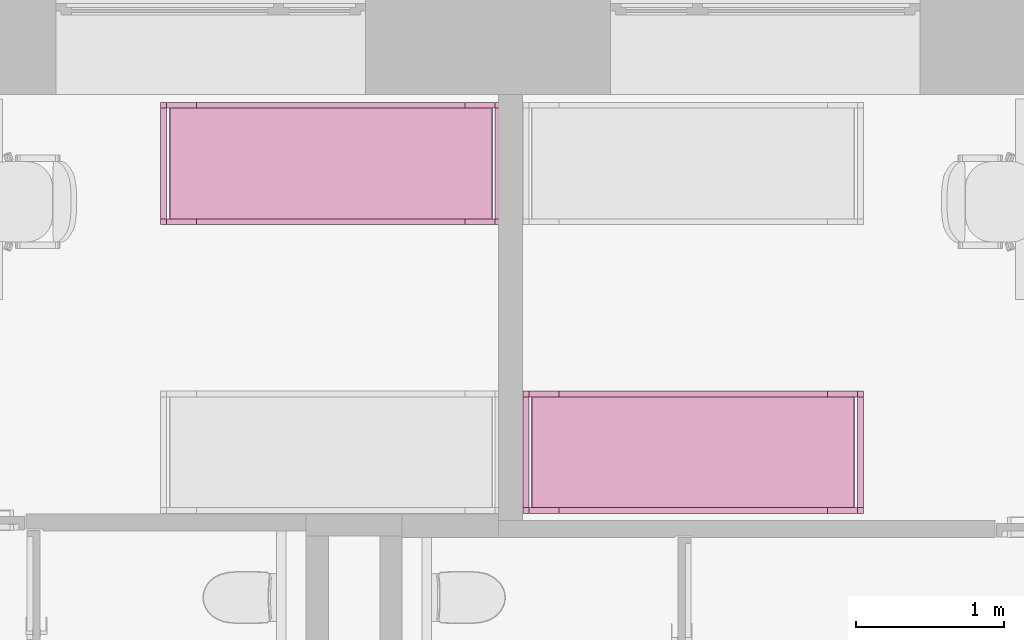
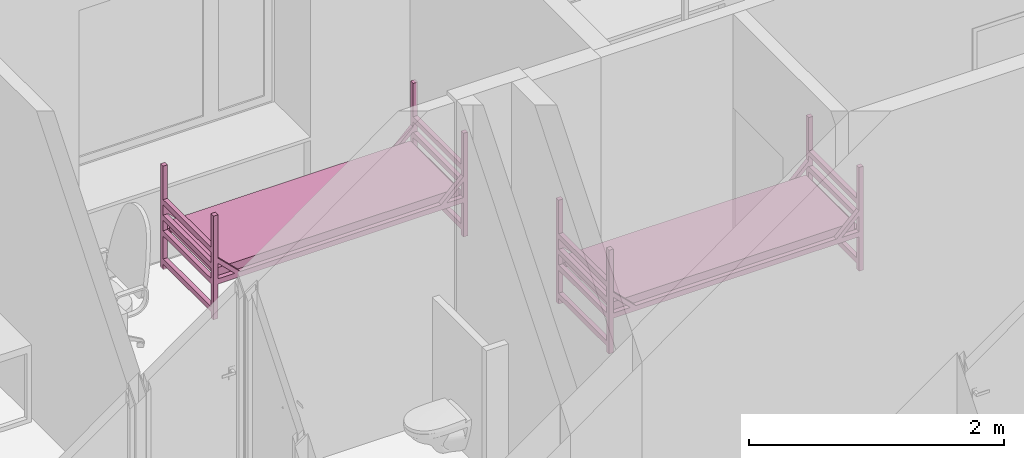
# One storey, part 37 of 46: 2 furnishings.
"""IFC2X3 building model written with IfcOpenShell, lengths in millimetres."""

from ifc_helpers import new_model, entity, si_unit, converted_unit, derived_unit, direction, frame, frame_2d, origin, origin_2d_with_axis, place, context, subcontext, project, spatial, polyline, circle_curve, parameter, trimmed, segment, composite_curve, rectangle, outline, extrude, source, transform, mapped, material, type_object, type_shapes, element, save


model = new_model("IFC2X3")

# Units and contexts
model_context = context("Model", 3, precision=0.01, world=origin(), true_north=direction((6.12303176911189e-17, 1.0)))
body_context = subcontext(model_context, "Body", "Model", "MODEL_VIEW")
ifc_project = project(units=[si_unit("LENGTHUNIT", "METRE", prefix="MILLI"), si_unit("AREAUNIT", "SQUARE_METRE"), si_unit("VOLUMEUNIT", "CUBIC_METRE"), converted_unit("PLANEANGLEUNIT", "DEGREE", entity("IfcRatioMeasure", 0.0174532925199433), si_unit("PLANEANGLEUNIT", "RADIAN"), dimensions=[0, 0, 0, 0, 0, 0, 0]), si_unit("MASSUNIT", "GRAM", prefix="KILO"), derived_unit("MASSDENSITYUNIT", [(si_unit("MASSUNIT", "GRAM", prefix="KILO"), 1), (si_unit("LENGTHUNIT", "METRE"), -3)]), si_unit("TIMEUNIT", "SECOND"), si_unit("FREQUENCYUNIT", "HERTZ"), si_unit("THERMODYNAMICTEMPERATUREUNIT", "DEGREE_CELSIUS"), derived_unit("THERMALTRANSMITTANCEUNIT", [(si_unit("MASSUNIT", "GRAM", prefix="KILO"), 1), (si_unit("THERMODYNAMICTEMPERATUREUNIT", "KELVIN"), -1), (si_unit("TIMEUNIT", "SECOND"), -3)]), derived_unit("VOLUMETRICFLOWRATEUNIT", [(si_unit("LENGTHUNIT", "METRE"), 3), (si_unit("TIMEUNIT", "SECOND"), -1)]), si_unit("ELECTRICCURRENTUNIT", "AMPERE"), si_unit("ELECTRICVOLTAGEUNIT", "VOLT"), si_unit("POWERUNIT", "WATT"), si_unit("FORCEUNIT", "NEWTON", prefix="KILO"), si_unit("ILLUMINANCEUNIT", "LUX"), si_unit("LUMINOUSFLUXUNIT", "LUMEN"), si_unit("LUMINOUSINTENSITYUNIT", "CANDELA"), derived_unit("USERDEFINED", [(si_unit("MASSUNIT", "GRAM", prefix="KILO"), -1), (si_unit("LENGTHUNIT", "METRE"), -2), (si_unit("TIMEUNIT", "SECOND"), 3), (si_unit("LUMINOUSFLUXUNIT", "LUMEN"), 1)]), derived_unit("LINEARVELOCITYUNIT", [(si_unit("LENGTHUNIT", "METRE"), 1), (si_unit("TIMEUNIT", "SECOND"), -1)]), si_unit("PRESSUREUNIT", "PASCAL"), derived_unit("USERDEFINED", [(si_unit("LENGTHUNIT", "METRE"), -2), (si_unit("MASSUNIT", "GRAM", prefix="KILO"), 1), (si_unit("TIMEUNIT", "SECOND"), -2)]), derived_unit("LINEARFORCEUNIT", [(si_unit("MASSUNIT", "GRAM", prefix="KILO"), 1), (si_unit("LENGTHUNIT", "METRE"), 1), (si_unit("TIMEUNIT", "SECOND"), -2), (si_unit("LENGTHUNIT", "METRE"), -1)]), derived_unit("PLANARFORCEUNIT", [(si_unit("MASSUNIT", "GRAM", prefix="KILO"), 1), (si_unit("LENGTHUNIT", "METRE"), 1), (si_unit("TIMEUNIT", "SECOND"), -2), (si_unit("LENGTHUNIT", "METRE"), -2)])], contexts=[model_context])

# Site, building, storey, space
site_placement = place(None, origin())
site = spatial("IfcSite", under=ifc_project, at=site_placement, Name="Default", CompositionType="ELEMENT")
building_placement = place(site_placement, origin())
building = spatial("IfcBuilding", under=site, at=building_placement, Name="SMA ARH", CompositionType="ELEMENT")
storey_placement = place(building_placement, frame((0.0, 0.0, 9910.0)))
storey = spatial("IfcBuildingStorey", under=building, at=storey_placement, Name="4 Korrus", CompositionType="ELEMENT", Elevation=9909.9999999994)
space_1_placement = place(storey_placement, origin())
space_1 = spatial("IfcSpace", under=storey, at=space_1_placement, Name="4-24", CompositionType="ELEMENT", InteriorOrExteriorSpace="INTERNAL")

# Furnishing
ifc_material = material(Name="Madrats")
furniture_type_1 = type_object("IfcFurnitureType", Name="Kasarmu voodi ühekordne 2308x830:Kasarmu voodi ühekordne 2308x830", material=ifc_material)
shared_shape_1 = source(origin(), body_context, "Body", "SweptSolid", [
    extrude(rectangle(XDim=39.9999999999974, YDim=750.000000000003, at=frame_2d((-1.35003119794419e-13, -2.8421709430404e-14), x_axis=(1.0, 0.0))), frame((1.68638457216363, -1226.7969571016, 55.0), z_axis=(0.0, 0.0, 1.0), x_axis=(0.0, -1.0, 0.0)), (0.0, 0.0, 1.0), 49.9999999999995),
    extrude(rectangle(XDim=39.9999999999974, YDim=750.000000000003, at=frame_2d((-1.35003119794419e-13, -2.8421709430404e-14), x_axis=(1.0, 0.0))), frame((1.68638457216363, -1226.7969571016, 325.0), z_axis=(0.0, 0.0, 1.0), x_axis=(0.0, -1.0, 0.0)), (0.0, 0.0, 1.0), 49.9999999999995),
    extrude(rectangle(XDim=39.9999999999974, YDim=750.000000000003, at=frame_2d((-1.35003119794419e-13, -2.8421709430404e-14), x_axis=(1.0, 0.0))), frame((1.68638457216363, -1226.7969571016, 475.0), z_axis=(0.0, 0.0, 1.0), x_axis=(0.0, -1.0, 0.0)), (0.0, 0.0, 1.0), 49.9999999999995),
    extrude(rectangle(XDim=39.9999999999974, YDim=750.000000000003, at=frame_2d((-1.35003119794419e-13, -2.8421709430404e-14), x_axis=(1.0, 0.0))), frame((1.68638457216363, -1226.7969571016, 625.0), z_axis=(0.0, 0.0, 1.0), x_axis=(0.0, -1.0, 0.0)), (0.0, 0.0, 1.0), 50.0000000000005),
    extrude(rectangle(XDim=39.9999999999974, YDim=750.000000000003, at=frame_2d((1.35003119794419e-13, -2.8421709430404e-14), x_axis=(1.0, 0.0))), frame((1.68638457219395, 1041.2030428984, 55.0), z_axis=(0.0, 0.0, 1.0), x_axis=(0.0, -1.0, 0.0)), (0.0, 0.0, 1.0), 50.0000000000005),
    extrude(rectangle(XDim=39.9999999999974, YDim=750.000000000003, at=frame_2d((1.35003119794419e-13, -2.8421709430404e-14), x_axis=(1.0, 0.0))), frame((1.68638457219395, 1041.2030428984, 325.0), z_axis=(0.0, 0.0, 1.0), x_axis=(0.0, -1.0, 0.0)), (0.0, 0.0, 1.0), 50.0000000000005),
    extrude(rectangle(XDim=39.9999999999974, YDim=750.000000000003, at=frame_2d((1.35003119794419e-13, -2.8421709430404e-14), x_axis=(1.0, 0.0))), frame((1.68638457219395, 1041.2030428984, 475.0), z_axis=(0.0, 0.0, 1.0), x_axis=(0.0, -1.0, 0.0)), (0.0, 0.0, 1.0), 50.0000000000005),
    extrude(rectangle(XDim=39.9999999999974, YDim=750.000000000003, at=frame_2d((1.35003119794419e-13, -2.8421709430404e-14), x_axis=(1.0, 0.0))), frame((1.68638457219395, 1041.2030428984, 625.0), z_axis=(0.0, 0.0, 1.0), x_axis=(0.0, -1.0, 0.0)), (0.0, 0.0, 1.0), 49.9999999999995),
    extrude(outline(composite_curve([segment(trimmed(circle_curve(frame_2d((1085.0, -40.0), x_axis=(1.0, 0.0)), 10.0), [parameter(270.0)], [parameter(0.0)], True, "PARAMETER"), True, "CONTINUOUS"), segment(polyline([(1095.0, -40.0), (1095.0, 40.0)]), True, "CONTINUOUS"), segment(trimmed(circle_curve(frame_2d((1085.0, 40.0), x_axis=(1.0, 0.0)), 10.0), [parameter(0.0)], [parameter(90.0000000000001)], True, "PARAMETER"), True, "CONTINUOUS"), segment(polyline([(1085.0, 50.0), (-1085.0, 50.0)]), True, "CONTINUOUS"), segment(trimmed(circle_curve(frame_2d((-1085.0, 40.0), x_axis=(1.0, 0.0)), 10.0), [parameter(90.0000000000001)], [parameter(180.0)], True, "PARAMETER"), True, "CONTINUOUS"), segment(polyline([(-1095.0, 40.0), (-1095.0, -40.0)]), True, "CONTINUOUS"), segment(trimmed(circle_curve(frame_2d((-1085.0, -40.0), x_axis=(1.0, 0.0)), 10.0), [parameter(180.0)], [parameter(270.0)], True, "PARAMETER"), True, "CONTINUOUS"), segment(polyline([(-1085.0, -50.0), (1085.0, -50.0)]), True, "CONTINUOUS")], self_intersect=False)), frame((-373.313615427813, -92.7969571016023, 405.0), z_axis=(1.0, 0.0, 0.0), x_axis=(0.0, -1.0, 0.0)), (0.0, 0.0, 1.0), 750.000000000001),
    extrude(outline(polyline([(-1114.0, -100.0), (1114.0, -100.0), (1114.0, -50.0), (961.59199141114, -50.0), (1114.0, 100.0), (1114.0, 150.0), (910.789321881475, -50.0), (-910.789321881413, -50.0), (-1114.0, 150.0), (-1114.0, 100.0), (-961.591991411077, -50.0), (-1114.0, -50.0), (-1114.0, -100.0)])), frame((-413.313615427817, -92.7969571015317, 430.0), z_axis=(1.0, 0.0, 0.0), x_axis=(0.0, 1.0, 0.0)), (0.0, 0.0, 1.0), 39.9999999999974),
    extrude(outline(polyline([(-1114.0, -100.0), (1114.0, -100.0), (1114.0, -50.0), (961.591991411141, -50.0), (1114.0, 100.0), (1114.0, 150.0), (910.789321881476, -50.0), (-910.789321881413, -50.0), (-1114.0, 150.0), (-1114.0, 100.0), (-961.591991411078, -50.0), (-1114.0, -50.0), (-1114.0, -100.0)])), frame((376.686384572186, -92.796957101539, 430.0), z_axis=(1.0, 0.0, 0.0), x_axis=(0.0, 1.0, 0.0)), (0.0, 0.0, 1.0), 39.9999999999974),
    extrude(rectangle(XDim=39.9999999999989, YDim=39.9999999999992, at=frame_2d((-6.75015598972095e-14, 0.0), x_axis=(1.0, 0.0))), frame((396.686384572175, -1226.79695710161, 0.0), z_axis=(0.0, 0.0, 1.0), x_axis=(0.0, 1.0, 0.0)), (0.0, 0.0, 1.0), 995.0),
    extrude(rectangle(XDim=39.9999999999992, YDim=39.9999999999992, at=frame_2d((-1.35003119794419e-13, 0.0), x_axis=(1.0, 0.0))), frame((396.686384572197, 1041.20304289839, 0.0), z_axis=(0.0, 0.0, 1.0), x_axis=(0.0, 1.0, 0.0)), (0.0, 0.0, 1.0), 995.0),
    extrude(rectangle(XDim=40.0000000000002, YDim=39.9999999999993, at=frame_2d((-1.35003119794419e-13, 0.0), x_axis=(1.0, 0.0))), frame((-393.313615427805, 1041.2030428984, 0.0), z_axis=(0.0, 0.0, 1.0), x_axis=(0.0, 1.0, 0.0)), (0.0, 0.0, 1.0), 995.0),
    extrude(rectangle(XDim=39.9999999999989, YDim=39.9999999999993, at=frame_2d((-6.75015598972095e-14, 0.0), x_axis=(1.0, 0.0))), frame((-393.313615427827, -1226.7969571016, 0.0), z_axis=(0.0, 0.0, 1.0), x_axis=(0.0, 1.0, 0.0)), (0.0, 0.0, 1.0), 995.0),
])
type_shapes(furniture_type_1, [shared_shape_1])
furnishing_1_placement = place(space_1_placement, frame((22161.2030428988, 12030.0, 0.0), z_axis=(0.0, 0.0, 1.0), x_axis=(0.0, 1.0, 0.0)))
element("IfcFurnishingElement", 1, at=furnishing_1_placement, inside=space_1, type_object=furniture_type_1, material=ifc_material, Name="Kasarmu voodi ühekordne 2308x830:Kasarmu voodi ühekordne 2308x830", ObjectType="Kasarmu voodi ühekordne 2308x830:Kasarmu voodi ühekordne 2308x830", context=body_context, shape_type="MappedRepresentation", body=[
    mapped(shared_shape_1, transform((0.0, 0.0, 0.0), scale=1.0)),
])

# Space
space_2_placement = place(storey_placement, origin())
space_2 = spatial("IfcSpace", under=storey, at=space_2_placement, Name="4-29", CompositionType="ELEMENT", InteriorOrExteriorSpace="INTERNAL")

# Furnishing
furniture_type_2 = type_object("IfcFurnitureType", Name="Kasarmu voodi ühekordne 2308x830:Kasarmu voodi ühekordne 2308x830", material=ifc_material)
shared_shape_2 = source(origin(), body_context, "Body", "SweptSolid", [
    extrude(rectangle(XDim=750.000000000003, YDim=39.9999999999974, at=frame_2d((0.0, 1.35003119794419e-13), x_axis=(1.0, 0.0))), frame((1.68638457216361, 1226.7969571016, 55.0)), (0.0, 0.0, 1.0), 49.9999999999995),
    extrude(rectangle(XDim=750.000000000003, YDim=39.9999999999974, at=frame_2d((0.0, 1.35003119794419e-13), x_axis=(1.0, 0.0))), frame((1.68638457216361, 1226.7969571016, 325.0)), (0.0, 0.0, 1.0), 49.9999999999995),
    extrude(rectangle(XDim=750.000000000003, YDim=39.9999999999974, at=frame_2d((0.0, 1.35003119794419e-13), x_axis=(1.0, 0.0))), frame((1.68638457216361, 1226.7969571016, 475.0)), (0.0, 0.0, 1.0), 49.9999999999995),
    extrude(rectangle(XDim=750.000000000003, YDim=39.9999999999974, at=frame_2d((0.0, 1.35003119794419e-13), x_axis=(1.0, 0.0))), frame((1.68638457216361, 1226.7969571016, 625.0)), (0.0, 0.0, 1.0), 50.0000000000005),
    extrude(rectangle(XDim=750.000000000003, YDim=39.9999999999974, at=origin_2d_with_axis()), frame((1.68638457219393, -1041.2030428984, 55.0)), (0.0, 0.0, 1.0), 50.0000000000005),
    extrude(rectangle(XDim=750.000000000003, YDim=39.9999999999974, at=origin_2d_with_axis()), frame((1.68638457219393, -1041.2030428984, 325.0)), (0.0, 0.0, 1.0), 50.0000000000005),
    extrude(rectangle(XDim=750.000000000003, YDim=39.9999999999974, at=origin_2d_with_axis()), frame((1.68638457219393, -1041.2030428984, 475.0)), (0.0, 0.0, 1.0), 50.0000000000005),
    extrude(rectangle(XDim=750.000000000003, YDim=39.9999999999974, at=origin_2d_with_axis()), frame((1.68638457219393, -1041.2030428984, 625.0)), (0.0, 0.0, 1.0), 49.9999999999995),
    extrude(outline(composite_curve([segment(polyline([(-1085.0, -50.0), (1085.0, -50.0)]), True, "CONTINUOUS"), segment(trimmed(circle_curve(frame_2d((1085.0, -40.0), x_axis=(-1.0, 0.0)), 10.0), [parameter(90.0000000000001)], [parameter(180.0)], True, "PARAMETER"), True, "CONTINUOUS"), segment(polyline([(1095.0, -40.0), (1095.0, 40.0)]), True, "CONTINUOUS"), segment(trimmed(circle_curve(frame_2d((1085.0, 40.0), x_axis=(-1.0, 0.0)), 10.0), [parameter(180.0)], [parameter(270.0)], True, "PARAMETER"), True, "CONTINUOUS"), segment(polyline([(1085.0, 50.0), (-1085.0, 50.0)]), True, "CONTINUOUS"), segment(trimmed(circle_curve(frame_2d((-1085.0, 40.0), x_axis=(-1.0, 0.0)), 10.0), [parameter(270.0)], [parameter(0.0)], True, "PARAMETER"), True, "CONTINUOUS"), segment(polyline([(-1095.0, 40.0), (-1095.0, -40.0)]), True, "CONTINUOUS"), segment(trimmed(circle_curve(frame_2d((-1085.0, -40.0), x_axis=(-1.0, 0.0)), 10.0), [parameter(0.0)], [parameter(90.0000000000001)], True, "PARAMETER"), True, "CONTINUOUS")], self_intersect=False)), frame((-373.313615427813, 92.7969571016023, 405.0), z_axis=(1.0, 0.0, 0.0), x_axis=(0.0, -1.0, 0.0)), (0.0, 0.0, 1.0), 750.000000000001),
    extrude(outline(polyline([(-100.0, -1114.0), (-50.0, -1114.0), (-50.0, -961.591991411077), (100.0, -1114.0), (150.0, -1114.0), (-50.0, -910.789321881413), (-50.0, 910.789321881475), (150.0, 1114.0), (100.0, 1114.0), (-50.0, 961.591991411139), (-50.0, 1114.0), (-100.0, 1114.0), (-100.0, -1114.0)])), frame((-413.313615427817, 92.7969571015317, 430.0), z_axis=(1.0, 0.0, 0.0), x_axis=(0.0, 0.0, 1.0)), (0.0, 0.0, 1.0), 39.9999999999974),
    extrude(outline(polyline([(-100.0, -1114.0), (-50.0, -1114.0), (-50.0, -961.591991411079), (100.0, -1114.0), (150.0, -1114.0), (-50.0, -910.789321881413), (-50.0, 910.789321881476), (150.0, 1114.0), (100.0, 1114.0), (-50.0, 961.591991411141), (-50.0, 1114.0), (-100.0, 1114.0), (-100.0, -1114.0)])), frame((376.686384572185, 92.796957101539, 430.0), z_axis=(1.0, 0.0, 0.0), x_axis=(0.0, 0.0, 1.0)), (0.0, 0.0, 1.0), 39.9999999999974),
    extrude(rectangle(XDim=39.9999999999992, YDim=39.9999999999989, at=frame_2d((0.0, -6.75015598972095e-14), x_axis=(1.0, 0.0))), frame((396.686384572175, 1226.79695710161, 0.0), z_axis=(0.0, 0.0, 1.0), x_axis=(-1.0, 0.0, 0.0)), (0.0, 0.0, 1.0), 995.0),
    extrude(rectangle(XDim=39.9999999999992, YDim=39.9999999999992, at=origin_2d_with_axis()), frame((396.686384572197, -1041.20304289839, 0.0), z_axis=(0.0, 0.0, 1.0), x_axis=(-1.0, 0.0, 0.0)), (0.0, 0.0, 1.0), 995.0),
    extrude(rectangle(XDim=39.9999999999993, YDim=40.0000000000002, at=origin_2d_with_axis()), frame((-393.313615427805, -1041.2030428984, 0.0), z_axis=(0.0, 0.0, 1.0), x_axis=(-1.0, 0.0, 0.0)), (0.0, 0.0, 1.0), 995.0),
    extrude(rectangle(XDim=39.9999999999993, YDim=39.9999999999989, at=frame_2d((0.0, -6.75015598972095e-14), x_axis=(1.0, 0.0))), frame((-393.313615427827, 1226.7969571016, 0.0), z_axis=(0.0, 0.0, 1.0), x_axis=(-1.0, 0.0, 0.0)), (0.0, 0.0, 1.0), 995.0),
])
type_shapes(furniture_type_2, [shared_shape_2])
furnishing_2_placement = place(space_2_placement, frame((24803.796957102, 10071.3136154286, 0.0), z_axis=(0.0, 0.0, 1.0), x_axis=(0.0, 1.0, 0.0)))
element("IfcFurnishingElement", 2, at=furnishing_2_placement, inside=space_2, type_object=furniture_type_2, material=ifc_material, Name="Kasarmu voodi ühekordne 2308x830:Kasarmu voodi ühekordne 2308x830", ObjectType="Kasarmu voodi ühekordne 2308x830:Kasarmu voodi ühekordne 2308x830", context=body_context, shape_type="MappedRepresentation", body=[
    mapped(shared_shape_2, transform((0.0, 0.0, 0.0), scale=1.0)),
])

save(model, "model.ifc")
